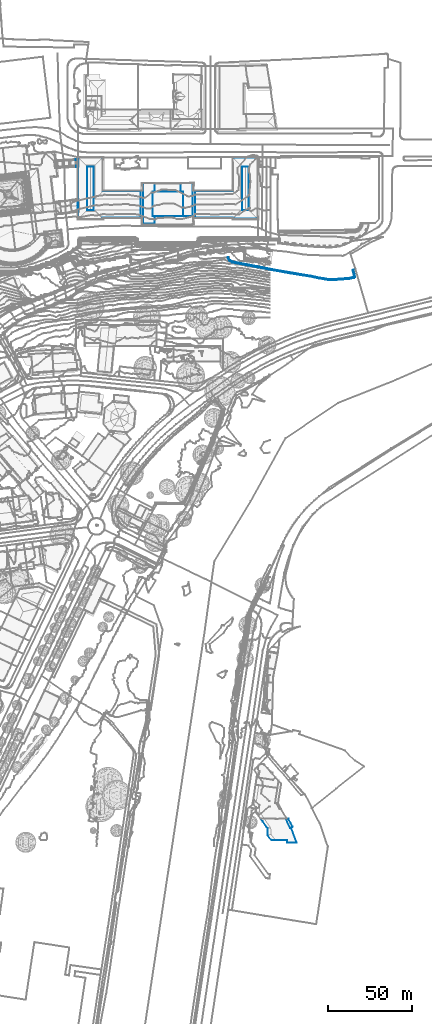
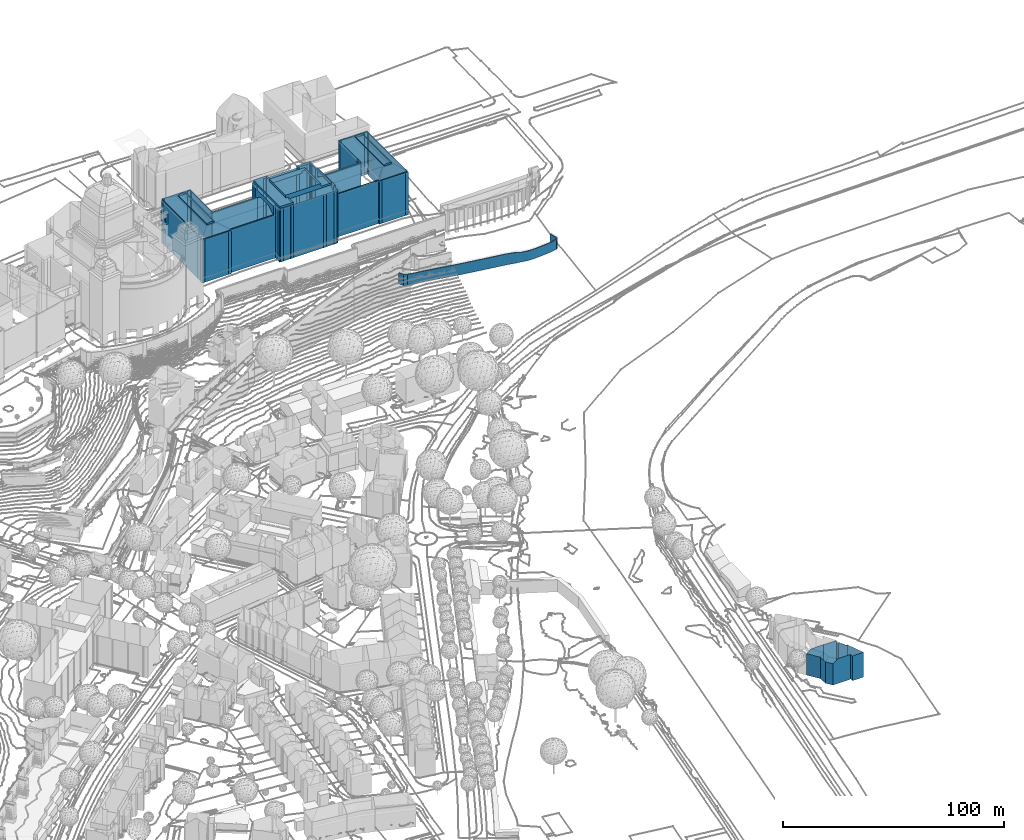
# Not in any storey, part 51 of 494: 3 walls.
"""IFC2X3 model written with IfcOpenShell, lengths in metres."""

import ifcopenshell
import ifcopenshell.guid

model = None  # the IFC model being written
_history = None  # IfcOwnerHistory: only IFC2X3 demands one
_inside = {}  # id of a spatial element -> (the spatial element, [elements in it])
_under = {}  # id of a project, library or spatial element -> (it, [spatial elements below it])
_declared = {}  # id of a project -> (the project, [libraries it declares])
_typed = {}  # id of a type object -> (the type object, [elements of that type])
_made_of = {}  # id of a material, layer set ... -> (it, [elements and type objects made of it])


def new_model(schema):
    """Start an empty IFC model of exactly this schema.

    Asked for "IFC4X3", IfcOpenShell would pick the latest addendum, in which some entities
    have other attributes; the version numbers below select the first issue.
    IFC2X3 requires an IfcOwnerHistory on every rooted entity: one is made here for all.
    """
    global model, _history
    if schema == "IFC4X3":
        model = ifcopenshell.file(schema_version=(4, 3, 0, 0))
    else:
        model = ifcopenshell.file(schema=schema)
    _inside.clear()
    _under.clear()
    _declared.clear()
    _typed.clear()
    _made_of.clear()
    _history = None
    if model.schema == "IFC2X3":
        org = make("IfcOrganization", Name="unknown")
        user = make(
            "IfcPersonAndOrganization",
            ThePerson=make("IfcPerson", FamilyName="unknown"),
            TheOrganization=org,
        )
        app = make(
            "IfcApplication",
            ApplicationDeveloper=org,
            Version="unknown",
            ApplicationFullName="unknown",
            ApplicationIdentifier="unknown",
        )
        _history = make(
            "IfcOwnerHistory",
            OwningUser=user,
            OwningApplication=app,
            ChangeAction="ADDED",
            CreationDate=0,
        )
    return model


def make(cls, **values):
    """One entity of the class cls with the attributes given. An attribute that is None is left unset."""
    return model.create_entity(
        cls, **{name: value for name, value in values.items() if value is not None}
    )


def rooted(cls, **values):
    """An entity with a GlobalId (a new one), such as an element, a storey or a relation."""
    return make(cls, GlobalId=ifcopenshell.guid.new(), OwnerHistory=_history, **values)


def si_unit(unit_type, name, prefix=None):
    """IfcSIUnit, for example si_unit("LENGTHUNIT", "METRE", prefix="MILLI")."""
    return make("IfcSIUnit", UnitType=unit_type, Prefix=prefix, Name=name)


def assignment(units):
    """IfcUnitAssignment: the units of a project."""
    return None if units is None else make("IfcUnitAssignment", Units=units)


def point(xyz):
    """IfcCartesianPoint."""
    return None if xyz is None else make("IfcCartesianPoint", Coordinates=xyz)


def direction(xyz):
    """IfcDirection."""
    return None if xyz is None else make("IfcDirection", DirectionRatios=xyz)


def frame(location, z_axis=None, x_axis=None):
    """IfcAxis2Placement3D, a coordinate frame: its origin and axes. An axis left out is left unset."""
    return make(
        "IfcAxis2Placement3D",
        Location=point(location),
        Axis=direction(z_axis),
        RefDirection=direction(x_axis),
    )


def origin_with_axes():
    """The frame at (0, 0, 0) with the z axis (0, 0, 1) and the x axis (1, 0, 0) written out."""
    return frame((0.0, 0.0, 0.0), z_axis=(0.0, 0.0, 1.0), x_axis=(1.0, 0.0, 0.0))


def place(relative_to, where):
    """IfcLocalPlacement: puts the frame where relative to a parent placement (None: the world)."""
    return make(
        "IfcLocalPlacement", PlacementRelTo=relative_to, RelativePlacement=where
    )


def context(
    kind, dimensions, precision=None, world=None, true_north=None, identifier=None
):
    """IfcGeometricRepresentationContext, for example the 3D "Model" context."""
    return make(
        "IfcGeometricRepresentationContext",
        ContextIdentifier=identifier,
        ContextType=kind,
        CoordinateSpaceDimension=dimensions,
        Precision=precision,
        WorldCoordinateSystem=world,
        TrueNorth=true_north,
    )


def subcontext(parent, identifier, kind, view, scale=None):
    """IfcGeometricRepresentationSubContext, for example "Body" below "Model"."""
    return make(
        "IfcGeometricRepresentationSubContext",
        ContextIdentifier=identifier,
        ContextType=kind,
        ParentContext=parent,
        TargetScale=scale,
        TargetView=view,
    )


def project(units=None, contexts=None):
    """IfcProject with its units and contexts."""
    return rooted(
        "IfcProject",
        Name="project",
        RepresentationContexts=contexts,
        UnitsInContext=assignment(units),
    )


def faces_of(points, faces, orient=None, outer=None):
    """IfcFace entities. A face is a list of loops; a loop is a list of indices into points, from 0.

    orient and outer hold one flag for each loop. By default every Orientation is true, the
    first loop of a face is its IfcFaceOuterBound and the others are IfcFaceBound.
    """
    made = []
    for i, loops in enumerate(faces):
        bounds = []
        for j, loop in enumerate(loops):
            is_outer = j == 0 if outer is None else outer[i][j]
            bounds.append(
                make(
                    "IfcFaceOuterBound" if is_outer else "IfcFaceBound",
                    Bound=make("IfcPolyLoop", Polygon=[points[k] for k in loop]),
                    Orientation=True if orient is None else orient[i][j],
                )
            )
        made.append(make("IfcFace", Bounds=bounds))
    return made


def faceted_brep(points, faces, orient=None, outer=None, voids=None):
    """IfcFacetedBrep: a solid bounded by flat faces; with voids (closed shells), ...WithVoids."""
    shared = [point(p) for p in points]
    hull = make("IfcClosedShell", CfsFaces=faces_of(shared, faces, orient, outer))
    if voids is None:
        return make("IfcFacetedBrep", Outer=hull)
    return make(
        "IfcFacetedBrepWithVoids",
        Outer=hull,
        Voids=[
            make(cls, CfsFaces=faces_of(shared, fs, o, b)) for cls, fs, o, b in voids
        ],
    )


def shape(context_of_items, identifier, shape_type, items):
    """IfcShapeRepresentation: the items that make up one representation, for example the "Body"."""
    return make(
        "IfcShapeRepresentation",
        ContextOfItems=context_of_items,
        RepresentationIdentifier=identifier,
        RepresentationType=shape_type,
        Items=items,
    )


def made_of(thing, what):
    """Note that an element or type object is made of a material, layer set ...; save() writes the relation."""
    if what is not None:
        _made_of.setdefault(what.id(), (what, []))[1].append(thing)
    return thing


def element(
    cls,
    number,
    at=None,
    inside=None,
    cuts=None,
    type_object=None,
    material=None,
    context=None,
    identifier="Body",
    shape_type=None,
    held_by="IfcProductDefinitionShape",
    body=None,
    shapes=None,
    **own,
):
    """One element of the class cls, such as IfcWall. Its Tag is "e" and its number.

    at: its placement. inside: the storey or other place that contains it. cuts: it is an
    opening in that element (IfcRelVoidsElement). A single representation is given by context,
    identifier, shape_type and body (its items); several are given by shapes. held_by: the class
    of the entity that holds the representations. save() writes the other relations.
    """
    e = rooted(cls, Tag="e%d" % number, ObjectPlacement=at, **own)
    if body is not None:
        shapes = [shape(context, identifier, shape_type, body)]
    if shapes is not None:
        e.Representation = make(held_by, Representations=shapes)
    if inside is not None:
        _inside.setdefault(inside.id(), (inside, []))[1].append(e)
    if cuts is not None:
        rooted(
            "IfcRelVoidsElement", RelatingBuildingElement=cuts, RelatedOpeningElement=e
        )
    if type_object is not None:
        _typed.setdefault(type_object.id(), (type_object, []))[1].append(e)
    return made_of(e, material)


def aggregate(whole, parts):
    """IfcRelAggregates: a whole, such as a stair, and the parts it consists of."""
    return rooted("IfcRelAggregates", RelatingObject=whole, RelatedObjects=parts)


def save(model, path):
    """Write the relations noted so far, then the file.

    IfcRelAggregates (storeys below a building ...), IfcRelContainedInSpatialStructure (elements
    in a storey), IfcRelDefinesByType, IfcRelAssociatesMaterial and IfcRelDeclares: one each for
    every whole, place, type object, material and project.
    """
    for whole, parts in _under.values():
        aggregate(whole, parts)
    for where, things in _inside.values():
        rooted(
            "IfcRelContainedInSpatialStructure",
            RelatedElements=things,
            RelatingStructure=where,
        )
    for kind, things in _typed.values():
        rooted("IfcRelDefinesByType", RelatedObjects=things, RelatingType=kind)
    for what, things in _made_of.values():
        rooted("IfcRelAssociatesMaterial", RelatedObjects=things, RelatingMaterial=what)
    for by, libraries in _declared.values():
        rooted("IfcRelDeclares", RelatingContext=by, RelatedDefinitions=libraries)
    model.write(path)


model = new_model("IFC2X3")

# Units and contexts
model_context = context("Model", 3, precision=1e-05, world=origin_with_axes())
body_context = subcontext(model_context, "Body", "Model", "MODEL_VIEW")
ifc_project = project(units=[si_unit("AREAUNIT", "SQUARE_METRE"), si_unit("LENGTHUNIT", "METRE")], contexts=[model_context])

# Walls
wall_1_placement = place(None, frame((211.8297320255, 101.9383160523, 526.7541), z_axis=(0.0, 0.0, 1.0), x_axis=(1.0, 0.0, 0.0)))
element("IfcWall", 1, at=wall_1_placement, Name="Wall 20", context=body_context, shape_type="Brep", body=[
    faceted_brep([(488.8709999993, 238.9609000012, -1.8388), (500.5580000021, 237.0214999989, -1.8388), (488.8709999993, 238.9609000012, -7.7962), (479.7039999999, 240.5458999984, -1.8388), (479.7039999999, 240.5458999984, -7.7962), (468.3090000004, 242.7518999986, -1.8388), (468.3090000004, 242.7518999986, -7.7962), (479.5970000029, 239.9638000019, -1.8388), (468.1980000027, 242.1719000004, -1.8388), (479.5970000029, 239.9638000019, -7.7962), (488.7719999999, 238.378899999, -1.8388), (488.7719999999, 238.378899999, -7.7963), (500.449000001, 236.4404000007, -1.8388), (500.449000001, 236.4404000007, -7.7963), (505.7670000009, 235.9442999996, -2.0218), (500.5580000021, 237.0214999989, -7.7963), (505.6630000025, 235.3623000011, -2.0218), (505.6630000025, 235.3623000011, -7.7963), (507.632000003, 235.0595999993, -2.5718), (507.632000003, 235.0595999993, -7.7963), (507.7270000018, 235.6435000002, -2.5718), (505.7670000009, 235.9442999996, -7.7963), (452.6150000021, 246.2402000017, -1.9298), (454.012000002, 245.4717000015, -1.9298), (452.6150000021, 246.2402000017, -7.7962), (451.4920000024, 248.1493999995, -1.9298), (451.4920000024, 248.1493999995, -7.7962), (450.9820000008, 247.8495999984, -1.9298), (450.9820000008, 247.8495999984, -7.7962), (452.188000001, 245.8007999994, -1.9298), (452.188000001, 245.8007999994, -7.7962), (453.8090000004, 244.9072000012, -1.9298), (453.8090000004, 244.9072000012, -7.7962), (454.012000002, 245.4717000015, -7.7962), (468.1980000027, 242.1719000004, -7.7962), (518.4959999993, 235.3154000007, -2.5718), (523.4180000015, 235.7626999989, -2.5718), (518.4959999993, 235.3154000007, -7.7963), (514.381000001, 235.0117000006, -2.5718), (514.381000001, 235.0117000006, -7.7963), (511.0240000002, 235.0713, -2.5718), (511.0240000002, 235.0713, -7.7963), (507.7270000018, 235.6435000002, -7.7963), (510.9680000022, 234.4814000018, -2.5718), (510.9680000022, 234.4814000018, -7.7963), (514.3969999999, 234.4189000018, -2.5718), (514.3969999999, 234.4189000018, -7.7963), (518.5439999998, 234.7256000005, -2.5718), (518.5439999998, 234.7256000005, -7.7963), (523.5020000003, 235.1766999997, -2.5718), (523.5020000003, 235.1766999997, -7.7963), (526.4680000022, 235.7578000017, -2.2968), (526.4680000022, 235.7578000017, -7.7963), (527.2090000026, 236.2470999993, -1.8389), (527.2090000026, 236.2470999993, -7.7963), (526.2390000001, 236.3154000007, -2.2968), (526.5410000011, 236.5146000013, -7.7963), (526.2390000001, 236.3154000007, -7.7963), (523.4180000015, 235.7626999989, -7.7963), (526.1720000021, 240.753899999, -1.8389), (526.1720000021, 240.753899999, -7.7963), (525.6280000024, 240.4824000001, -1.8389), (525.6280000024, 240.4824000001, -7.7963), (526.5410000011, 236.5146000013, -1.8389)], [[[0, 1, 2]], [[3, 0, 4]], [[5, 3, 6]], [[7, 8, 9]], [[10, 7, 11]], [[12, 10, 13]], [[1, 14, 15]], [[16, 13, 17]], [[18, 17, 19]], [[14, 20, 21]], [[22, 23, 24]], [[25, 22, 26]], [[27, 25, 28]], [[29, 27, 30]], [[31, 29, 32]], [[23, 6, 33]], [[8, 31, 34]], [[35, 36, 37]], [[38, 35, 39]], [[40, 38, 41]], [[20, 40, 42]], [[43, 18, 44]], [[45, 43, 46]], [[47, 45, 48]], [[49, 47, 50]], [[51, 49, 52]], [[53, 51, 54]], [[55, 56, 57]], [[36, 57, 58]], [[59, 53, 60]], [[61, 59, 62]], [[63, 61, 56]], [[1, 15, 2]], [[0, 2, 4]], [[3, 4, 6]], [[8, 34, 9]], [[7, 9, 11]], [[10, 11, 13]], [[14, 21, 15]], [[12, 13, 16]], [[16, 17, 18]], [[20, 42, 21]], [[23, 33, 24]], [[22, 24, 26]], [[25, 26, 28]], [[27, 28, 30]], [[29, 30, 32]], [[5, 6, 23]], [[31, 32, 34]], [[36, 58, 37]], [[35, 37, 39]], [[38, 39, 41]], [[40, 41, 42]], [[18, 19, 44]], [[43, 44, 46]], [[45, 46, 48]], [[47, 48, 50]], [[49, 50, 52]], [[51, 52, 54]], [[63, 56, 55]], [[55, 57, 36]], [[53, 54, 60]], [[59, 60, 62]], [[61, 62, 56]]]),
])
wall_2_placement = place(None, frame((682.616732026, 15.1316160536, 498.9643), z_axis=(0.0, 0.0, 1.0), x_axis=(1.0, 0.0, 0.0)))
element("IfcWall", 2, at=wall_2_placement, Name="Wall 0", context=body_context, shape_type="Brep", body=[
    faceted_brep([(16.7990000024, -0.0205000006, 2.5127), (16.5890000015, -0.1533000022, 12.1218), (16.5890000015, -0.1533000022, 2.5127), (16.6170000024, 0.2578999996, 11.8698), (16.7990000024, -0.0205000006, 11.8698), (16.6170000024, 0.2578999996, 2.5127), (15.637000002, -0.1053999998, 12.9047), (15.637000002, -0.1053999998, 2.5127), (19.1810000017, -4.7470000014, 2.5127), (19.1810000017, -4.7470000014, 12.2708), (18.1359999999, -5.3476000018, 13.0857), (18.1359999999, -5.3476000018, 2.5127), (8.7800000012, 0.111399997, 13.6987), (8.7820000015, -0.058600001, 13.6977), (8.7800000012, 0.111399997, 0.0), (15.561999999, 0.0273999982, 13.7346), (15.561999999, 0.0273999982, 0.0), (15.637000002, -0.1053999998, 13.7346), (15.637000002, -0.1053999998, 0.0), (10.300999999, -12.7324000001, 13.6706), (10.2690000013, -12.7324000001, 13.6706), (10.300999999, -12.7323000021, 0.0), (15.6960000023, -12.6611000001, 13.7036), (15.6960000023, -12.6611000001, 0.0), (15.7170000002, -14.2617000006, 13.6996), (15.7170000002, -14.2617000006, -0.0001), (21.4649999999, -14.1865000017, 13.7346), (21.4649999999, -14.1865000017, -0.0001), (18.1359999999, -5.3476000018, 13.7346), (18.1359999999, -5.3476000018, 0.0), (6.4220000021, -12.7861000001, 11.8178), (4.1160000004, -9.7519000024, 11.8178), (6.4220000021, -12.7861000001, 0.0), (15.074000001, -0.3164000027, 2.5127), (17.5820000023, -5.5849000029, 2.5127), (15.074000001, -0.3164000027, 0.0), (15.074000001, -0.3164000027, 13.7346), (17.5820000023, -5.5849000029, 13.7346), (15.074000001, -0.3164000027, 13.4927), (17.5820000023, -5.5849000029, 0.0), (17.5820000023, -5.5849000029, 13.4927), (17.9759999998, -2.6123000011, 12.3078), (17.9759999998, -2.6123000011, 2.5127), (2.1720000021, 0.0273999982, 0.0), (0.0, 0.0, 11.8468), (0.5950000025, 0.0078999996, 12.3008), (0.5950000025, 0.0078999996, 0.0), (0.0, 0.0, 0.0), (2.1720000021, 0.0273999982, 13.6637), (8.512000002, 0.1083999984, 0.0), (8.9470000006, -0.0566000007, 13.6977), (14.9220000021, 0.0196000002, 0.0), (8.7820000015, -0.058600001, 0.0), (14.9220000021, 0.0196000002, 13.7346), (8.8110000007, -12.7509000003, 13.6636), (9.0830000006, -12.7470000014, 13.6636), (10.2690000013, -12.7324000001, 0.0), (9.0830000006, -12.7470000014, 0.0), (4.1150000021, -9.6581999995, 0.0), (4.0549999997, -5.5224000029, 0.0), (4.1160000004, -9.7519000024, 0.0), (4.1150000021, -9.6581999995, 11.8718), (4.0549999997, -5.5224000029, 11.8178), (3.3480000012, -4.5625, 0.0), (1.1270000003, -1.5361000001, 0.0), (3.3480000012, -4.5625, 11.8178), (1.1270000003, -1.5361000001, 11.8438), (1.0399999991, -1.4169999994, 11.8388), (1.0399999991, -1.4169999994, 0.0), (8.512000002, 0.1083999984, 13.6987)], [[[0, 1, 2]], [[3, 4, 5]], [[4, 0, 5]], [[6, 3, 7]], [[8, 9, 10]], [[11, 8, 10]], [[12, 13, 14]], [[15, 7, 16]], [[6, 15, 17]], [[7, 18, 16]], [[19, 20, 21]], [[22, 19, 23]], [[24, 23, 25]], [[26, 24, 27]], [[10, 28, 26]], [[10, 26, 11]], [[11, 27, 29]], [[30, 31, 32]], [[33, 34, 35]], [[36, 37, 38]], [[6, 17, 38]], [[36, 38, 17]], [[7, 33, 18]], [[34, 11, 39]], [[40, 37, 28]], [[28, 10, 40]], [[1, 41, 2]], [[42, 2, 41]], [[8, 42, 41]], [[8, 41, 9]], [[43, 44, 45]], [[44, 46, 47]], [[43, 46, 44]], [[45, 48, 43]], [[14, 49, 12]], [[48, 49, 43]], [[50, 51, 52]], [[15, 16, 53]], [[53, 51, 50]], [[54, 30, 55]], [[20, 55, 30]], [[30, 56, 20]], [[32, 57, 30]], [[57, 56, 30]], [[58, 31, 59]], [[31, 58, 60]], [[31, 61, 62]], [[31, 62, 59]], [[59, 62, 63]], [[64, 63, 65]], [[65, 66, 64]], [[67, 44, 47]], [[68, 64, 67]], [[47, 68, 67]], [[67, 64, 66]], [[1, 0, 4]], [[3, 5, 7]], [[13, 52, 14]], [[6, 7, 15]], [[20, 56, 21]], [[19, 21, 23]], [[22, 23, 24]], [[24, 25, 27]], [[26, 27, 11]], [[31, 60, 32]], [[34, 39, 35]], [[37, 40, 38]], [[33, 35, 18]], [[11, 29, 39]], [[49, 69, 12]], [[69, 49, 48]], [[52, 13, 50]], [[16, 51, 53]], [[62, 65, 63]]]),
])
wall_3_placement = place(None, frame((572.3587320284, 408.4910160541, 550.1071), z_axis=(0.0, 0.0, 1.0), x_axis=(1.0, 0.0, 0.0)))
element("IfcWall", 3, at=wall_3_placement, Name="Wall 0", context=body_context, shape_type="Brep", body=[
    faceted_brep([(62.6499999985, -19.3300999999, 16.9103), (62.6479999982, -14.433600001, 15.7716), (62.6499999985, -19.3300999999, 15.7714), (69.7969999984, -14.3955000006, 16.9105), (69.8039999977, -33.9023000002, 16.9103), (69.7969999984, -14.3955000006, 15.7716), (62.7609999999, -14.3984000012, 16.9105), (62.7609999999, -14.3984000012, 15.7716), (46.9689999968, -14.4043000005, 16.9105), (46.9689999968, -14.438500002, 16.9105), (46.9689999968, -14.4043000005, 15.7716), (40.1149999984, -14.4062000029, 16.9105), (41.5719999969, -14.3994000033, 16.9105), (40.1149999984, -14.4062000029, 15.7716), (40.123999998, -38.5342000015, 16.9103), (40.123999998, -38.5342000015, 15.7714), (47.1019999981, -38.5312000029, 16.9103), (47.1019999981, -38.5312000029, 15.7714), (47.0919999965, -14.438500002, 16.9105), (47.0939999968, -19.3349000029, 15.7714), (47.0919999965, -14.438500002, 15.7716), (45.7109999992, -33.9121000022, 18.4771), (45.7049999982, -19.3359000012, 18.4772), (45.7109999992, -33.9121000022, 16.9103), (64.1399999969, -19.3291000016, 18.4771), (64.1459999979, -33.9043000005, 18.4771), (64.1399999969, -19.3291000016, 16.9103), (47.0939999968, -19.3349000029, 16.9103), (45.7049999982, -19.3359000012, 16.9103), (10.5989999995, -4.3613000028, 14.2047), (10.6089999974, -30.3193000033, 14.2045), (10.5989999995, -4.3613000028, 13.5457), (6.6459999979, -30.3203000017, 14.2045), (6.6349999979, -4.3623000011, 14.2047), (6.6459999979, -30.3203000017, 13.5455), (14.6839999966, 1.1513999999, 10.288), (16.1789999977, 1.1552999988, 10.288), (14.6839999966, 1.1513999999, -13.3597), (2.5289999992, 1.1444999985, 10.288), (2.5319999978, 1.0243999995, 10.288), (2.5289999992, 1.1445999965, -13.3597), (2.5319999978, 1.003899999, -13.3597), (2.5319999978, 1.003899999, 10.805), (1.0259999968, 1.1444999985, 10.288), (1.0259999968, 1.1445999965, -13.3597), (1.0339999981, -0.3564000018, 5.7995), (1.0339999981, -0.3564000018, 10.288), (1.0319999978, 0.061499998, 5.7995), (1.0339999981, -0.3564000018, -13.3597), (1.0339999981, -0.3564000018, 0.0), (1.0319999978, 0.061499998, 0.0), (1.1699999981, -0.3545000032, 0.0), (1.1699999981, -0.3545000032, -13.3597), (1.1909999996, -4.4883000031, 10.288), (1.186999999, -3.7715000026, 5.7995), (1.1909999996, -4.4883000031, 5.7995), (1.1699999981, -0.3545000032, 10.288), (1.1909999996, -4.4883000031, 0.0), (1.186999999, -3.7715000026, 0.0), (1.1909999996, -4.4883000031, -13.3597), (1.1710000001, -0.5117000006, 5.7995), (1.1710000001, -0.5117000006, 0.0), (1.1699999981, -0.3545000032, 5.7995), (1.1489999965, -31.5244000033, 10.2878), (1.1909999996, -4.5596000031, 5.7995), (1.1909999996, -4.5595000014, 0.0), (1.1489999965, -31.5244000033, -13.3599), (1.0989999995, -31.5244000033, 10.2878), (1.0988999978, -31.5244000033, -13.3599), (1.1489999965, -33.313500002, 10.2878), (1.1489999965, -33.313500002, -13.3599), (1.1589999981, -34.3252000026, 10.2878), (1.1589999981, -34.3252000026, -13.3599), (1.0629999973, -34.3242000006, 10.2878), (1.0629999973, -34.3242000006, -13.3599), (1.0599999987, -35.8672000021, 10.2878), (1.0599999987, -35.8672000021, -13.3599), (2.5999999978, -35.8642000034, 10.2878), (2.5999999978, -35.8642000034, -13.3599), (2.6039999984, -35.7695000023, 10.2878), (2.6039999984, -35.7695000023, -13.3599), (14.7159999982, -35.7558000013, 10.2878), (14.7159999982, -35.7558000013, -13.3599), (14.7179999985, -35.8535000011, 10.2878), (14.7179999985, -35.8535000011, -13.3599), (16.2609999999, -35.8467000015, 10.2878), (16.2609999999, -35.8467000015, -13.3599), (16.2589999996, -35.1377000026, 10.2878), (16.2589999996, -35.1377000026, -13.3599), (16.0809999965, -0.2617000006, 10.288), (16.0339999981, -18.8681000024, 10.2878), (16.0809999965, -0.2617000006, -13.3597), (16.1799999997, -0.2637000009, 10.288), (16.1799999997, -0.2637000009, -13.3597), (16.1789999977, 1.1552999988, -13.3597), (2.5319999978, 1.0243999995, 10.792), (14.682, 1.0068999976, -13.3597), (14.682, 1.0068999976, 10.806), (14.682, 1.0292999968, 10.288), (16.0179999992, -34.871100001, 10.7918), (16.0179999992, -35.5986000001, 10.7918), (16.0179999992, -34.871100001, 10.2878), (16.0029999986, 1.0302999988, 10.792), (16.0109999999, -19.0781000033, 10.7918), (16.0029999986, 1.0302999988, 10.288), (1.2899999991, 1.0243999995, 10.792), (1.2899999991, 1.0243999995, 10.288), (14.682, 1.0292999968, 10.792), (1.3039999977, -35.6045000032, 10.7918), (1.3039999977, -35.6045000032, 10.2878), (16.0179999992, -35.5986000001, 10.2878), (0.2749999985, -4.6133000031, 5.7995), (0.2280000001, -3.8281000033, 5.7995), (0.2749999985, -4.6133000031, 0.0), (0.2280000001, -3.8281000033, 0.0), (0.0349999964, -0.5791000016, 5.7995), (0.0, 0.0, 5.7995), (0.0349999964, -0.5791000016, 0.0), (0.0, 0.0, 0.0), (38.5929999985, -19.0693000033, 10.2879), (16.0109999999, -19.0781000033, 10.2878), (38.5989999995, -34.8623000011, 10.7919), (38.5989999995, -34.8623000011, 10.2879), (108.4569999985, -35.5625, 10.7918), (93.6469999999, -35.567400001, 10.7918), (108.4569999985, -35.5625, 10.2878), (108.443, 1.066399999, 10.7921), (108.443, 1.066399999, 10.2881), (93.6319999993, 1.0605999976, 10.7921), (93.6319999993, 1.0605999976, 10.2881), (93.6469999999, -34.8418000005, 10.7918), (93.6469999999, -35.567400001, 10.2879), (71.0399999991, -34.8506000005, 10.7918), (93.6469999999, -34.8418000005, 10.2879), (93.6389999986, -16.3506000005, 10.792), (93.6389999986, -15.8144000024, 10.2881), (93.6389999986, -16.3506000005, 10.2881), (93.6399999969, -18.6543000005, 10.7918), (93.6399999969, -18.1279000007, 10.2879), (93.6399999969, -18.6543000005, 10.2879), (93.6399999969, -19.0469000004, 10.7918), (93.6399999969, -18.8642000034, 10.7918), (93.6399999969, -19.0469000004, 10.2879), (93.6329999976, -0.2109000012, 10.7921), (93.6329999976, -0.2109000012, 10.2881), (71.0339999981, -19.0566000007, 10.7919), (71.0339999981, -19.0566000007, 10.2879), (69.6829999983, -14.3056000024, 15.7716), (70.1829999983, -14.3105000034, 15.7716), (69.6829999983, -14.3056000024, -13.4546), (69.6849999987, -14.2050999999, 15.7716), (69.6849999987, -14.2050999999, -13.4546), (68.1789999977, -14.2080000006, 15.7716), (68.1789999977, -14.2080000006, -13.4546), (68.1769999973, -14.3691000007, 15.7716), (68.1769999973, -14.3691000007, -13.4546), (64.2759999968, -14.3808000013, 15.7716), (64.2759999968, -14.3808000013, -13.4546), (64.2729999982, -14.2197000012, 15.7716), (64.2729999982, -14.2197000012, -13.4546), (62.7639999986, -14.2275000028, 15.7716), (62.7639999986, -14.2275000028, -13.4546), (45.4729999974, -14.2314000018, 15.7716), (46.9659999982, -14.2236000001, 15.7716), (45.4729999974, -14.2314000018, -13.4546), (45.4669999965, -14.3955000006, 15.7716), (45.4669999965, -14.3994000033, -13.4016), (45.4669999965, -14.3916000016, -13.4546), (41.5669999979, -14.2373000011, 15.7716), (41.5719999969, -14.3994000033, -13.4016), (41.5669999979, -14.2373000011, -13.4546), (41.5719999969, -14.3916000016, -13.4546), (40.0769999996, -14.2451000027, 15.7716), (40.0769999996, -14.2451000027, -13.4546), (40.060999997, -14.3398000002, 15.7716), (40.060999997, -14.3398000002, -13.4546), (39.5699999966, -14.3515000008, 15.7716), (39.5699999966, -14.3515000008, -13.4546), (39.5989999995, -15.8105000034, 15.7716), (39.5989999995, -15.8105000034, -13.4546), (39.7199999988, -15.813500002, 15.7716), (39.7199999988, -15.813500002, -13.4546), (39.6399999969, -37.4619000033, 15.7714), (39.6439999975, -35.0849000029, -13.4548), (39.6399999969, -37.4619000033, -13.4548), (39.6439999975, -35.0849000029, 15.7714), (39.5799999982, -37.4609000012, 15.7714), (39.5799999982, -37.4609000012, -13.4548), (39.5749999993, -38.9814000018, 15.7714), (39.5749999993, -38.9814000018, -13.4548), (40.0919999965, -38.9922000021, 15.7714), (40.0919999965, -38.9922000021, -13.4548), (40.0939999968, -39.0898000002, 15.7714), (40.0939999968, -39.0898000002, -13.4548), (41.5989999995, -39.0928000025, 15.7714), (41.5989999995, -39.0928000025, -13.4548), (41.6059999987, -38.9902000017, 15.7714), (41.6059999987, -38.9902000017, -13.4548), (45.4179999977, -38.9824000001, 15.7714), (45.4179999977, -38.9824000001, -13.4548), (45.4179999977, -39.0810000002, 15.7714), (45.4179999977, -39.0810000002, -13.4548), (46.9639999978, -39.0888000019, 15.7714), (46.9639999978, -39.0888000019, -13.4548), (46.9629999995, -38.9951000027, 15.7714), (46.9629999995, -38.9951000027, -13.4548), (62.4829999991, -38.9648000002, 15.7714), (62.4829999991, -38.9648000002, -13.4548), (62.4890000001, -39.0713, 15.7714), (62.4890000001, -39.0713, -13.4548), (64.1419999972, -39.0420000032, 15.7714), (64.1419999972, -39.0420000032, -13.4548), (64.1449999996, -38.9414000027, 15.7714), (64.1449999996, -38.9414000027, -13.4548), (68.0669999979, -38.9053000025, 15.7714), (68.0669999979, -38.9053000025, -13.4548), (68.0479999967, -39.0547000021, 15.7714), (68.0479999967, -39.0547000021, -13.4548), (69.6419999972, -39.0088, 15.7714), (69.6419999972, -39.0088, -13.4548), (69.6339999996, -38.8603000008, 15.7714), (69.6339999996, -38.8603000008, -13.4548), (70.2299999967, -38.8584000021, 15.7714), (70.2299999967, -38.8584000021, -13.4548), (70.231999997, -37.3330000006, 15.7714), (70.231999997, -37.3330000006, -13.4548), (70.1209999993, -37.3144000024, 15.7714), (70.1209999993, -37.3144000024, -13.4548), (71.0339999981, -18.8506000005, -13.3138), (71.0399999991, -35.0322000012, -13.3138), (71.0339999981, -18.8506000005, -13.4548), (70.1849999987, -15.7969000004, 15.7716), (70.0649999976, -15.7969000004, 15.7716), (70.1849999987, -15.7969000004, -13.4546), (70.1829999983, -14.3105000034, -13.4546), (103.1019999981, -4.3242000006, 13.5458), (103.1019999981, -4.3242000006, 14.2047), (103.1089999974, -23.5996000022, 13.5456), (103.1119999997, -30.2822000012, 14.2045), (103.1119999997, -30.2822000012, 13.5455), (107.2029999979, 1.2997999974, 10.2881), (108.7059999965, 1.2978999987, 10.2881), (107.2029999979, 1.2997999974, -13.3136), (107.1959999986, 1.1552999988, 10.2881), (107.1959999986, 1.1552999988, -13.3136), (95.0329999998, 1.1318999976, 10.2881), (95.0329999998, 1.1318999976, -13.3136), (95.0239999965, 1.2734999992, 10.2881), (95.0239999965, 1.2734999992, -13.3136), (93.5359999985, 1.2802999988, 10.2881), (93.5359999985, 1.2802999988, -13.3136), (93.5349999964, -0.2109000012, 10.2881), (93.5349999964, -0.2109000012, -13.3136), (93.5259999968, -16.3515000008, 10.2881), (93.5219999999, -15.8144000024, 10.2881), (93.5259999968, -16.3515000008, -13.3136), (93.5289999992, -18.6543000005, 10.2879), (93.5299999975, -18.1289000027, 10.2879), (93.5289999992, -18.6543000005, -13.3138), (93.5519999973, -35.0508000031, 10.2879), (74.4599999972, -34.9971000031, 10.2879), (93.5519999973, -35.0508000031, -13.3139), (93.5629999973, -35.751000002, 10.2879), (93.5629999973, -35.751000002, -13.3139), (95.0839999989, -35.7539000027, 10.2879), (95.0839999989, -35.7539000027, -13.3139), (95.0829999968, -35.6543000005, 10.2879), (95.0829999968, -35.6543000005, -13.3139), (107.2169999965, -35.6484000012, 10.2878), (107.2169999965, -35.6484000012, -13.3139), (107.2169999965, -35.7383000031, 10.2878), (107.2169999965, -35.7383000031, -13.3139), (108.7579999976, -35.7373000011, 10.2878), (108.7579999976, -35.7373000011, -13.3139), (108.7519999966, -34.2119000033, 10.2878), (108.7519999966, -34.2119000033, -13.3139), (108.5519999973, -34.2129000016, 10.2878), (108.5519999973, -34.2129000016, -13.3139), (108.5069999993, -0.192400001, 10.2881), (108.5069999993, -0.192400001, -13.3136), (108.9069999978, -0.1914000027, 10.2881), (108.9069999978, -0.1914000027, -13.3136), (108.9069999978, 0.3085999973, 10.2881), (108.9069999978, 0.3085999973, -13.3136), (108.7069999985, 0.307599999, 10.2881), (108.7069999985, 0.307599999, -13.3136), (108.7059999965, 1.2978999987, -13.3136), (70.1140000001, -35.0410000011, -13.4548), (70.1140000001, -35.0410000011, 15.7714), (70.0659999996, -18.8574000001, 10.2879), (70.0649999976, -15.7969000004, -13.4546), (70.0659999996, -18.8574000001, 15.7714), (99.1479999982, -30.2842000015, 13.5456), (99.1479999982, -30.2842000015, 14.2045), (99.1379999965, -4.3262000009, 13.5458), (47.0999999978, -33.9111000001, 16.9103), (47.0999999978, -33.9111000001, 15.7714), (46.9659999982, -14.2236000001, -13.4546), (46.9689999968, -14.438500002, -13.4546), (39.7239999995, -18.8838, 15.7714), (39.7239999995, -18.8838, -13.4548), (38.5989999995, -35.0869000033, -13.3598), (38.5929999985, -18.8818000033, -13.3598), (38.5989999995, -35.0869000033, -13.4548), (38.5989999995, -35.0869000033, 15.7714), (38.5969999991, -30.3076000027, 13.5456), (38.5929999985, -18.8818000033, 15.7714), (38.5989999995, -35.0869000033, 10.2879), (38.5949999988, -23.6240000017, 13.5456), (38.5929999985, -19.0693000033, 10.7919), (38.5929999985, -18.8818000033, 10.2879), (71.0339999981, -18.8506000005, 15.7714), (71.0359999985, -23.6123000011, 13.5456), (71.0399999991, -35.0322000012, 15.7714), (71.0339999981, -18.8506000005, 10.2879), (71.0379999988, -30.2949000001, 13.5456), (71.0399999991, -35.0322000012, 10.2879), (71.0399999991, -34.8506000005, 10.2879), (62.7599999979, -14.433600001, 16.9105), (62.7599999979, -14.433600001, -13.4546), (64.1459999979, -33.9043000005, 16.9103), (69.8039999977, -33.9023000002, 15.7714), (62.6479999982, -14.433600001, 16.9105), (8.6849999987, -30.3193000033, 13.5455), (10.6089999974, -30.3193000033, 13.5455), (8.6849999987, -30.3193000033, 14.6794), (6.6349999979, -4.3623000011, 13.5457), (8.674999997, -4.3613000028, 13.5457), (8.674999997, -4.3613000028, 14.6796), (93.6839999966, -0.2109000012, 10.8231), (93.6839999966, -0.2109000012, -13.3136), (93.7009999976, -15.8144000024, -13.3136), (93.7009999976, -15.8144000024, 10.829), (93.5219999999, -15.8144000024, -13.3136), (93.6389999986, -15.8144000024, 10.792), (93.868999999, -16.3496000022, 10.93), (93.868999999, -16.3496000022, -13.3136), (93.5299999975, -18.1289000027, -13.3138), (93.8829999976, -18.1269000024, -13.3138), (93.6399999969, -18.1279000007, 10.7918), (93.8829999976, -18.1269000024, 10.9378), (93.7390000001, -18.6543000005, 10.8508), (93.739099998, -18.6543000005, -13.3138), (93.7390000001, -18.8642000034, -13.3138), (93.7390000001, -18.8642000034, 10.8508), (74.675999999, -18.8262000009, -13.3138), (74.675999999, -18.8262000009, 10.2879), (93.6399999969, -18.8642000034, 10.2879), (101.1879999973, -30.2832000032, 14.6794), (99.1379999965, -4.3262000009, 14.2047), (101.1779999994, -4.3252000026, 14.6797), (70.0659999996, -18.8574000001, -13.4548), (74.4599999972, -34.9970000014, -13.3139), (71.0399999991, -35.0322000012, -13.4548), (41.5719999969, -14.3955000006, 15.7716), (45.4669999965, -14.3994000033, 16.9105), (16.0339999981, -18.8681000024, -13.3599), (38.5929999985, -18.8818000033, -13.4548)], [[[0, 1, 2]], [[3, 4, 5]], [[6, 5, 7]], [[8, 9, 10]], [[11, 12, 13]], [[14, 11, 15]], [[16, 14, 17]], [[18, 19, 20]], [[21, 22, 23]], [[24, 25, 26]], [[22, 27, 28]], [[27, 22, 0]], [[27, 2, 19]], [[0, 24, 26]], [[24, 0, 22]], [[0, 2, 27]], [[29, 30, 31]], [[32, 33, 34]], [[35, 36, 37]], [[38, 39, 40]], [[40, 39, 41]], [[42, 41, 39]], [[43, 38, 44]], [[45, 46, 47]], [[48, 49, 50]], [[47, 43, 50]], [[43, 47, 46]], [[50, 44, 48]], [[44, 50, 43]], [[51, 49, 52]], [[53, 54, 55]], [[56, 54, 53]], [[57, 58, 59]], [[59, 58, 52]], [[60, 61, 54]], [[60, 56, 62]], [[61, 51, 52]], [[63, 64, 65]], [[64, 63, 53]], [[66, 65, 59]], [[65, 66, 63]], [[53, 55, 64]], [[57, 59, 65]], [[67, 63, 68]], [[69, 67, 70]], [[71, 69, 72]], [[73, 71, 74]], [[75, 73, 76]], [[77, 75, 78]], [[79, 77, 80]], [[81, 79, 82]], [[83, 81, 84]], [[85, 83, 86]], [[87, 85, 88]], [[89, 90, 91]], [[92, 89, 93]], [[36, 92, 94]], [[95, 42, 39]], [[96, 97, 37]], [[98, 35, 37]], [[98, 37, 97]], [[99, 100, 101]], [[102, 103, 104]], [[105, 39, 106]], [[107, 102, 98]], [[108, 105, 109]], [[100, 108, 110]], [[111, 112, 113]], [[112, 54, 114]], [[64, 111, 65]], [[115, 116, 117]], [[56, 46, 62]], [[116, 47, 118]], [[60, 115, 61]], [[103, 119, 120]], [[121, 99, 122]], [[123, 124, 125]], [[126, 123, 127]], [[128, 126, 129]], [[124, 130, 131]], [[130, 132, 133]], [[134, 135, 136]], [[137, 138, 139]], [[140, 141, 142]], [[143, 128, 144]], [[145, 140, 146]], [[147, 148, 149]], [[150, 147, 151]], [[152, 150, 153]], [[154, 152, 155]], [[156, 154, 157]], [[158, 156, 159]], [[160, 158, 161]], [[162, 163, 164]], [[165, 162, 166]], [[166, 164, 167]], [[168, 169, 170]], [[169, 171, 170]], [[172, 168, 173]], [[174, 172, 175]], [[176, 174, 177]], [[178, 176, 179]], [[180, 178, 181]], [[182, 183, 184]], [[183, 182, 185]], [[186, 182, 187]], [[188, 186, 189]], [[190, 188, 191]], [[192, 190, 193]], [[194, 192, 195]], [[196, 194, 197]], [[198, 196, 199]], [[200, 198, 201]], [[202, 200, 203]], [[204, 202, 205]], [[206, 204, 207]], [[208, 206, 209]], [[210, 208, 211]], [[212, 210, 213]], [[214, 212, 215]], [[216, 214, 217]], [[218, 216, 219]], [[220, 218, 221]], [[222, 220, 223]], [[224, 222, 225]], [[226, 224, 227]], [[228, 229, 230]], [[231, 232, 233]], [[148, 231, 234]], [[235, 236, 237]], [[237, 238, 239]], [[240, 241, 242]], [[243, 240, 244]], [[245, 243, 246]], [[247, 245, 248]], [[249, 247, 250]], [[251, 249, 252]], [[253, 254, 255]], [[256, 257, 258]], [[259, 260, 261]], [[262, 259, 263]], [[264, 262, 265]], [[266, 264, 267]], [[268, 266, 269]], [[270, 268, 271]], [[272, 270, 273]], [[274, 272, 275]], [[276, 274, 277]], [[278, 276, 279]], [[280, 278, 281]], [[282, 280, 283]], [[284, 282, 285]], [[241, 284, 286]], [[287, 288, 226]], [[232, 289, 290]], [[289, 232, 291]], [[292, 293, 294]], [[295, 16, 296]], [[163, 10, 297]], [[297, 10, 298]], [[9, 298, 10]], [[299, 181, 300]], [[301, 302, 303]], [[304, 305, 121]], [[305, 304, 306]], [[307, 121, 122]], [[121, 307, 304]], [[308, 306, 309]], [[306, 308, 305]], [[119, 309, 310]], [[310, 309, 306]], [[311, 312, 145]], [[312, 311, 313]], [[314, 145, 146]], [[145, 314, 311]], [[315, 313, 132]], [[313, 315, 312]], [[132, 316, 317]], [[316, 132, 313]], [[318, 7, 319]], [[7, 318, 6]], [[319, 7, 161]], [[320, 321, 4]], [[25, 295, 320]], [[295, 21, 23]], [[295, 321, 320]], [[295, 296, 321]], [[295, 25, 21]], [[9, 18, 20]], [[20, 298, 9]], [[1, 298, 20]], [[1, 318, 319]], [[318, 1, 322]], [[319, 298, 1]], [[323, 324, 325]], [[325, 324, 30]], [[32, 34, 323]], [[32, 323, 325]], [[326, 33, 327]], [[327, 33, 328]], [[327, 29, 31]], [[29, 327, 328]], [[185, 304, 183]], [[88, 301, 87]], [[42, 97, 41]], [[96, 41, 97]], [[329, 143, 144]], [[329, 144, 330]], [[251, 252, 330]], [[251, 330, 144]], [[331, 332, 329]], [[329, 330, 331]], [[333, 254, 331]], [[331, 254, 135]], [[135, 334, 332]], [[135, 332, 331]], [[335, 134, 136]], [[335, 136, 336]], [[253, 255, 336]], [[253, 336, 136]], [[337, 257, 338]], [[338, 257, 138]], [[138, 339, 340]], [[138, 340, 338]], [[341, 137, 139]], [[341, 139, 342]], [[256, 258, 342]], [[256, 342, 139]], [[343, 344, 342]], [[341, 342, 344]], [[345, 346, 343]], [[343, 346, 347]], [[347, 141, 344]], [[347, 344, 343]], [[239, 238, 348]], [[293, 292, 239]], [[293, 239, 348]], [[294, 349, 235]], [[235, 349, 350]], [[235, 350, 236]], [[340, 335, 338]], [[291, 311, 289]], [[228, 351, 289]], [[314, 289, 311]], [[314, 346, 345]], [[345, 228, 314]], [[314, 228, 289]], [[229, 260, 316]], [[229, 352, 260]], [[229, 287, 353]], [[288, 287, 316]], [[287, 229, 316]], [[288, 316, 313]], [[310, 302, 90]], [[299, 310, 306]], [[299, 300, 310]], [[165, 166, 354]], [[354, 12, 165]], [[355, 8, 10]], [[10, 165, 355]], [[322, 1, 0]], [[4, 321, 5]], [[3, 5, 6]], [[12, 354, 13]], [[11, 13, 15]], [[14, 15, 17]], [[27, 19, 18]], [[22, 28, 23]], [[25, 320, 26]], [[30, 324, 31]], [[33, 326, 34]], [[36, 94, 37]], [[38, 40, 44]], [[49, 48, 52]], [[60, 54, 56]], [[58, 61, 52]], [[61, 58, 54]], [[63, 66, 68]], [[67, 68, 70]], [[69, 70, 72]], [[71, 72, 74]], [[73, 74, 76]], [[75, 76, 78]], [[77, 78, 80]], [[79, 80, 82]], [[81, 82, 84]], [[83, 84, 86]], [[85, 86, 88]], [[90, 356, 91]], [[89, 91, 93]], [[92, 93, 94]], [[107, 98, 97]], [[100, 110, 101]], [[103, 120, 104]], [[95, 39, 105]], [[102, 104, 98]], [[105, 106, 109]], [[108, 109, 110]], [[112, 114, 113]], [[54, 58, 114]], [[111, 113, 65]], [[116, 118, 117]], [[46, 45, 62]], [[47, 50, 118]], [[115, 117, 61]], [[309, 119, 103]], [[99, 101, 122]], [[124, 131, 125]], [[123, 125, 127]], [[126, 127, 129]], [[130, 133, 131]], [[132, 317, 133]], [[334, 135, 134]], [[339, 138, 137]], [[141, 347, 142]], [[128, 129, 144]], [[140, 142, 146]], [[148, 234, 149]], [[147, 149, 151]], [[150, 151, 153]], [[152, 153, 155]], [[154, 155, 157]], [[156, 157, 159]], [[158, 159, 161]], [[163, 297, 164]], [[162, 164, 166]], [[354, 169, 168]], [[168, 170, 173]], [[172, 173, 175]], [[174, 175, 177]], [[176, 177, 179]], [[178, 179, 181]], [[182, 184, 187]], [[186, 187, 189]], [[188, 189, 191]], [[190, 191, 193]], [[192, 193, 195]], [[194, 195, 197]], [[196, 197, 199]], [[198, 199, 201]], [[200, 201, 203]], [[202, 203, 205]], [[204, 205, 207]], [[206, 207, 209]], [[208, 209, 211]], [[210, 211, 213]], [[212, 213, 215]], [[214, 215, 217]], [[216, 217, 219]], [[218, 219, 221]], [[220, 221, 223]], [[222, 223, 225]], [[224, 225, 227]], [[229, 353, 230]], [[232, 290, 233]], [[231, 233, 234]], [[236, 238, 237]], [[241, 286, 242]], [[240, 242, 244]], [[243, 244, 246]], [[245, 246, 248]], [[247, 248, 250]], [[249, 250, 252]], [[254, 333, 255]], [[257, 337, 258]], [[260, 352, 261]], [[259, 261, 263]], [[262, 263, 265]], [[264, 265, 267]], [[266, 267, 269]], [[268, 269, 271]], [[270, 271, 273]], [[272, 273, 275]], [[274, 275, 277]], [[276, 277, 279]], [[278, 279, 281]], [[280, 281, 283]], [[282, 283, 285]], [[284, 285, 286]], [[226, 227, 287]], [[289, 351, 290]], [[293, 349, 294]], [[16, 17, 296]], [[180, 181, 299]], [[302, 357, 303]], [[7, 160, 161]], [[304, 307, 183]], [[307, 301, 183]], [[301, 303, 183]], [[301, 307, 87]], [[335, 336, 338]], [[228, 230, 351]], [[302, 356, 90]], [[300, 302, 310]], [[300, 357, 302]], [[166, 169, 354]], [[12, 355, 165]]]),
])

save(model, "model.ifc")
